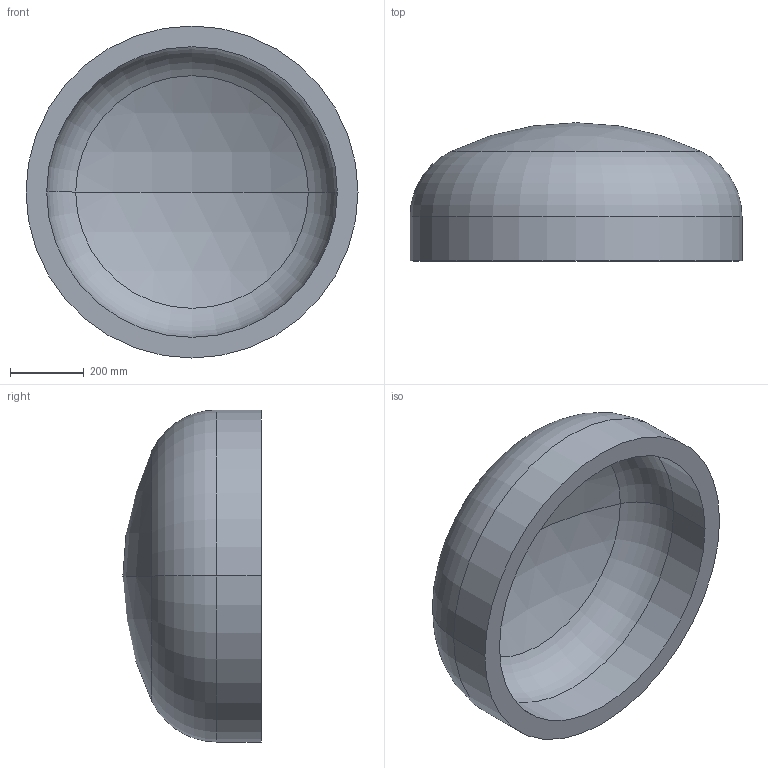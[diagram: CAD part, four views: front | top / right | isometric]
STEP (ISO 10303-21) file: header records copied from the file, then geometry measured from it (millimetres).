
FILE_DESCRIPTION (( 'STEP AP203' ), '1' );
FILE_NAME ('DIN 28013 Korbbogenform_-_Boden DIN 28013 - 900 x 120 - I - s=56.step', '2016-07-01T08:34:04', ( '' ), ( '' ), 'SwSTEP 2.0', 'SolidWorks 2013', '' );
FILE_SCHEMA (( 'CONFIG_CONTROL_DESIGN' ));
Length unit declared in the file: millimetre
Products named in the file (1): DIN 28013 Korbbogenform_-_Boden DIN 28013 - 900 x 120 - I - s=56
Bounding box: 900 x 374.57 x 900 mm (x, y, z)
Volume: 63498471.2 mm3; surface area: 2422854.4 mm2
Topology: 1 solids, 1 shells, 13 faces, 24 edges, 14 vertices
Faces by surface type: torus 4, cylinder 4, sphere 4, plane 1
Entity records: 407 total; most frequent: DIRECTION 72, CARTESIAN_POINT 52, ORIENTED_EDGE 48, AXIS2_PLACEMENT_3D 34, EDGE_CURVE 24, CIRCLE 20, VERTEX_POINT 14, EDGE_LOOP 14
